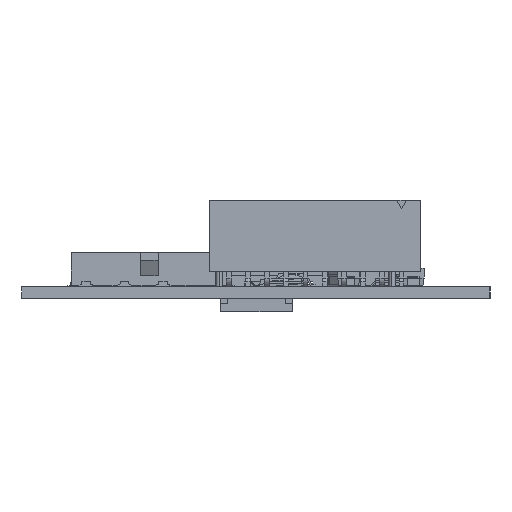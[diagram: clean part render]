
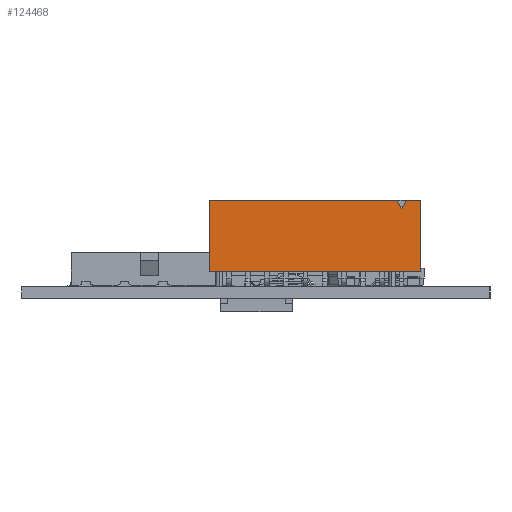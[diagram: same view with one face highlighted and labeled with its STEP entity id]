
A CAD part, left-side view. The second image highlights one B-rep face of the part: STEP entity #124468.
In plain terms, the highlighted planar face has unit normal (-1, 0, 0) as drawn and (0, 0, 1) by its records, which use the part's own axes.
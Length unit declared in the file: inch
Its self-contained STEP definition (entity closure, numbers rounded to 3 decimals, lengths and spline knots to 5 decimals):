
#6249 = ORIENTED_EDGE ( 'NONE', *, *, #60963, .T. ) ;
#6713 = DIRECTION ( 'NONE',  ( 0., -1., 0. ) ) ;
#7553 = VERTEX_POINT ( 'NONE', #74677 ) ;
#8961 = ORIENTED_EDGE ( 'NONE', *, *, #80194, .F. ) ;
#10852 = VECTOR ( 'NONE', #50159, 39.37008 ) ;
#11232 = ORIENTED_EDGE ( 'NONE', *, *, #15445, .T. ) ;
#11519 = VECTOR ( 'NONE', #67943, 39.37008 ) ;
#14506 = EDGE_LOOP ( 'NONE', ( #8961, #6249, #11232, #44732, #135460, #18994, #101904 ) ) ;
#14911 = VERTEX_POINT ( 'NONE', #29870 ) ;
#15445 = EDGE_CURVE ( 'NONE', #7553, #43437, #67793, .T. ) ;
#16939 = CARTESIAN_POINT ( 'NONE',  ( 0.9, 0.38, 0.1655 ) ) ;
#17281 = CARTESIAN_POINT ( 'NONE',  ( -0.1, 0.15, 0.1655 ) ) ;
#18994 = ORIENTED_EDGE ( 'NONE', *, *, #63862, .T. ) ;
#25955 = VECTOR ( 'NONE', #62691, 39.37008 ) ;
#26507 = LINE ( 'NONE', #76094, #135578 ) ;
#29870 = CARTESIAN_POINT ( 'NONE',  ( 1., 0.425, 0.1655 ) ) ;
#30422 = CARTESIAN_POINT ( 'NONE',  ( 1., 0.055, 0.1655 ) ) ;
#31218 = EDGE_CURVE ( 'NONE', #14911, #76578, #128102, .T. ) ;
#33973 = DIRECTION ( 'NONE',  ( 0.5, -0.866, 0. ) ) ;
#38942 = LINE ( 'NONE', #92191, #10852 ) ;
#41303 = PLANE ( 'NONE',  #50286 ) ;
#43437 = VERTEX_POINT ( 'NONE', #56307 ) ;
#43792 = VECTOR ( 'NONE', #72163, 39.37008 ) ;
#44239 = VERTEX_POINT ( 'NONE', #16939 ) ;
#44732 = ORIENTED_EDGE ( 'NONE', *, *, #95798, .F. ) ;
#50110 = CARTESIAN_POINT ( 'NONE',  ( 0.87402, 0.425, 0.1655 ) ) ;
#50159 = DIRECTION ( 'NONE',  ( -1., 0., 0. ) ) ;
#50286 = AXIS2_PLACEMENT_3D ( 'NONE', #51975, #62597, #136516 ) ;
#51975 = CARTESIAN_POINT ( 'NONE',  ( 1., 0.15, 0.1655 ) ) ;
#54056 = LINE ( 'NONE', #136623, #25955 ) ;
#54189 = CARTESIAN_POINT ( 'NONE',  ( 1., 0.055, 0.1655 ) ) ;
#56307 = CARTESIAN_POINT ( 'NONE',  ( -0.1, 0.055, 0.1655 ) ) ;
#59398 = EDGE_CURVE ( 'NONE', #44239, #91484, #71093, .T. ) ;
#60963 = EDGE_CURVE ( 'NONE', #121080, #7553, #38942, .T. ) ;
#62597 = DIRECTION ( 'NONE',  ( 0., 0., 1. ) ) ;
#62691 = DIRECTION ( 'NONE',  ( -1., 0., 0. ) ) ;
#63862 = EDGE_CURVE ( 'NONE', #14911, #91484, #54056, .T. ) ;
#64793 = DIRECTION ( 'NONE',  ( -1., 0., 0. ) ) ;
#67793 = LINE ( 'NONE', #17281, #120638 ) ;
#67943 = DIRECTION ( 'NONE',  ( 0.5, 0.866, 0. ) ) ;
#69900 = CARTESIAN_POINT ( 'NONE',  ( 0.92598, 0.425, 0.1655 ) ) ;
#71093 = LINE ( 'NONE', #89198, #11519 ) ;
#72163 = DIRECTION ( 'NONE',  ( 0., -1., 0. ) ) ;
#74037 = LINE ( 'NONE', #54189, #126841 ) ;
#74677 = CARTESIAN_POINT ( 'NONE',  ( -0.1, 0.425, 0.1655 ) ) ;
#76094 = CARTESIAN_POINT ( 'NONE',  ( 0.87402, 0.425, 0.1655 ) ) ;
#76578 = VERTEX_POINT ( 'NONE', #30422 ) ;
#80194 = EDGE_CURVE ( 'NONE', #121080, #44239, #26507, .T. ) ;
#89198 = CARTESIAN_POINT ( 'NONE',  ( 0.9, 0.38, 0.1655 ) ) ;
#91484 = VERTEX_POINT ( 'NONE', #69900 ) ;
#92191 = CARTESIAN_POINT ( 'NONE',  ( -0.43546, 0.425, 0.1655 ) ) ;
#95798 = EDGE_CURVE ( 'NONE', #76578, #43437, #74037, .T. ) ;
#101904 = ORIENTED_EDGE ( 'NONE', *, *, #59398, .F. ) ;
#117480 = FACE_OUTER_BOUND ( 'NONE', #14506, .T. ) ;
#120638 = VECTOR ( 'NONE', #6713, 39.37008 ) ;
#121080 = VERTEX_POINT ( 'NONE', #50110 ) ;
#124468 = ADVANCED_FACE ( 'NONE', ( #117480 ), #41303, .T. ) ;
#126841 = VECTOR ( 'NONE', #64793, 39.37008 ) ;
#128102 = LINE ( 'NONE', #135435, #43792 ) ;
#135435 = CARTESIAN_POINT ( 'NONE',  ( 1., 0.15, 0.1655 ) ) ;
#135460 = ORIENTED_EDGE ( 'NONE', *, *, #31218, .F. ) ;
#135578 = VECTOR ( 'NONE', #33973, 39.37008 ) ;
#136516 = DIRECTION ( 'NONE',  ( 1., 0., 0. ) ) ;
#136623 = CARTESIAN_POINT ( 'NONE',  ( -0.43546, 0.425, 0.1655 ) ) ;
